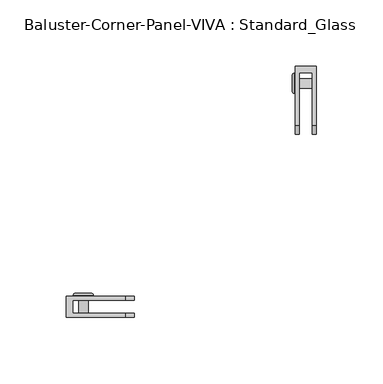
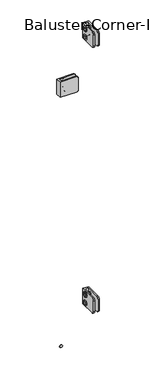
"""IFC4 building model written with IfcOpenShell, lengths in millimetres: railing geometry, Baluster-Corner-Panel-VIVA : Standard_Glass."""

from ifc_helpers import new_model, si_unit, point, frame, origin, place, context, project, spatial, polyline, circle_curve, ellipse_curve, trimmed, outline, extrude, source, transform, mapped, element, save
from ifc_brep_helpers import plane_surface, cylinder_surface, revolved_surface, advanced_brep


def baluster_corner_panel_viva_standard_glass_ee1e2aa6(model_context):
    return source(origin(), model_context, "Body", "SolidModel", [
        extrude(outline(polyline([(140.1000648, 917.178125), (138.0531006, 913.6326791), (133.9591723, 913.6326791), (131.9122082, 917.178125), (133.9591723, 920.7235709), (138.0531006, 920.7235709), (140.1000648, 917.178125)])), frame((21.7024185, 0.0, 0.0), z_axis=(1.0, 0.0, 0.0), x_axis=(0.0, 1.0, 0.0)), (0.0, 0.0, 1.0), 1.4969696),
        advanced_brep(
        [(36.7665, 139.5515824, 917.178125), (36.7665, 132.4606905, 917.178125), (24.0665, 132.4606905, 917.178125), (24.0665, 139.5515824, 917.178125), (24.0665, 128.5983474, 917.178125), (24.0665, 143.4139255, 917.178125), (23.199388, 137.6622118, 917.178125), (23.199388, 134.3500611, 917.178125), (36.7665, 134.3500611, 917.178125), (36.7665, 137.6622118, 917.178125), (23.2316551, 143.4139255, 917.178125), (23.2316551, 128.5983474, 917.178125), (21.9503831, 129.8796194, 917.178125), (21.9503831, 142.1326535, 917.178125), (21.9503831, 131.7075409, 917.178125), (21.9503831, 140.304732, 917.178125), (23.199388, 131.7075409, 917.178125), (23.199388, 140.304732, 917.178125)],
        [
            (0, 1, circle_curve(frame((36.7665, 136.0061365, 917.178125), z_axis=(-1.0, 0.0, 0.0), x_axis=(0.0, -1.0, 0.0)), 3.5454459)),
            (1, 2),
            (2, 3, circle_curve(frame((24.0665, 136.0061365, 917.178125), z_axis=(1.0, 0.0, 0.0), x_axis=(0.0, -1.0, 0.0)), 3.5454459)),
            (3, 0),
            (1, 0, circle_curve(frame((36.7665, 136.0061365, 917.178125), z_axis=(-1.0, 0.0, 0.0), x_axis=(0.0, -1.0, 0.0)), 3.5454459)),
            (3, 2, circle_curve(frame((24.0665, 136.0061365, 917.178125), z_axis=(1.0, 0.0, 0.0), x_axis=(0.0, -1.0, 0.0)), 3.5454459)),
            (2, 4),
            (4, 5, circle_curve(frame((24.0665, 136.0061365, 917.178125), z_axis=(1.0, 0.0, 0.0), x_axis=(0.0, -1.0, 0.0)), 7.4077891)),
            (5, 3),
            (5, 4, circle_curve(frame((24.0665, 136.0061365, 917.178125), z_axis=(1.0, 0.0, 0.0), x_axis=(0.0, -1.0, 0.0)), 7.4077891)),
            (6, 7, circle_curve(frame((23.199388, 136.0061365, 917.178125), z_axis=(-1.0, 0.0, 0.0), x_axis=(0.0, -1.0, 0.0)), 1.6560754)),
            (7, 8),
            (8, 9, circle_curve(frame((36.7665, 136.0061365, 917.178125), z_axis=(1.0, 0.0, 0.0), x_axis=(0.0, -1.0, 0.0)), 1.6560754)),
            (9, 6),
            (7, 6, circle_curve(frame((23.199388, 136.0061365, 917.178125), z_axis=(-1.0, 0.0, 0.0), x_axis=(0.0, -1.0, 0.0)), 1.6560754)),
            (9, 8, circle_curve(frame((36.7665, 136.0061365, 917.178125), z_axis=(1.0, 0.0, 0.0), x_axis=(0.0, -1.0, 0.0)), 1.6560754)),
            (10, 11, circle_curve(frame((23.2316551, 136.0061365, 917.178125), z_axis=(-1.0, 0.0, 0.0), x_axis=(0.0, -1.0, 0.0)), 7.4077891)),
            (11, 12, circle_curve(frame((23.2316551, 129.8796194, 917.178125), z_axis=(0.0, 0.0, -1.0), x_axis=(0.0, -1.0, 0.0)), 1.281272)),
            (12, 13, circle_curve(frame((21.9503831, 136.0061365, 917.178125), z_axis=(1.0, 0.0, 0.0), x_axis=(0.0, -1.0, 0.0)), 6.1265171)),
            (13, 10, circle_curve(frame((23.2316551, 142.1326535, 917.178125), z_axis=(0.0, 0.0, -1.0), x_axis=(0.0, 1.0, 0.0)), 1.281272)),
            (11, 10, circle_curve(frame((23.2316551, 136.0061365, 917.178125), z_axis=(-1.0, 0.0, 0.0), x_axis=(0.0, -1.0, 0.0)), 7.4077891)),
            (13, 12, circle_curve(frame((21.9503831, 136.0061365, 917.178125), z_axis=(1.0, 0.0, 0.0), x_axis=(0.0, -1.0, 0.0)), 6.1265171)),
            (12, 14),
            (14, 15, circle_curve(frame((21.9503831, 136.0061365, 917.178125), z_axis=(1.0, 0.0, 0.0), x_axis=(0.0, -1.0, 0.0)), 4.2985955)),
            (15, 13),
            (15, 14, circle_curve(frame((21.9503831, 136.0061365, 917.178125), z_axis=(1.0, 0.0, 0.0), x_axis=(0.0, -1.0, 0.0)), 4.2985955)),
            (4, 11),
            (10, 5),
            (8, 1),
            (0, 9),
            (14, 16),
            (16, 17, circle_curve(frame((23.199388, 136.0061365, 917.178125), z_axis=(1.0, 0.0, 0.0), x_axis=(0.0, -1.0, 0.0)), 4.2985955)),
            (17, 15),
            (17, 16, circle_curve(frame((23.199388, 136.0061365, 917.178125), z_axis=(1.0, 0.0, 0.0), x_axis=(0.0, -1.0, 0.0)), 4.2985955)),
            (16, 7),
            (6, 17),
        ],
        [
            cylinder_surface(frame((27.5632331, 136.0061365, 917.178125), z_axis=(1.0, 0.0, 0.0), x_axis=(0.0, -1.0, 0.0)), 3.5454459),
            plane_surface(frame((24.0665, 136.0061365, 917.178125), z_axis=(1.0, 0.0, 0.0), x_axis=(0.0, -1.0, 0.0))),
            revolved_surface(polyline([(36.7665, 134.3500611, 917.178125), (23.199388, 134.3500611, 917.178125)]), (27.5632331, 136.0061365, 917.178125), (1.0, 0.0, 0.0)),
            revolved_surface(trimmed(ellipse_curve(frame((23.2316551, 129.8796194, 917.178125), z_axis=(0.0, 0.0, 1.0), x_axis=(0.0, -1.0, 0.0)), 1.281272, 1.281272), [point((21.9503831, 129.8796194, 917.178125))], [point((23.2316551, 128.5983474, 917.178125))], True, "CARTESIAN"), (27.5632331, 136.0061365, 917.178125), (1.0, 0.0, 0.0)),
            plane_surface(frame((21.9503831, 136.0061365, 917.178125), z_axis=(-1.0, 0.0, 0.0), x_axis=(0.0, -1.0, 0.0))),
            cylinder_surface(frame((27.5632331, 136.0061365, 917.178125), z_axis=(1.0, 0.0, 0.0), x_axis=(0.0, -1.0, 0.0)), 7.4077891),
            plane_surface(frame((36.7665, 136.0061365, 917.178125), z_axis=(1.0, 0.0, 0.0), x_axis=(0.0, -1.0, 0.0))),
            revolved_surface(polyline([(23.199388, 131.707541, 917.178125), (21.9503831, 131.707541, 917.178125)]), (27.5632331, 136.0061365, 917.178125), (1.0, 0.0, 0.0)),
            plane_surface(frame((23.199388, 136.0061365, 917.178125), z_axis=(-1.0, 0.0, 0.0), x_axis=(0.0, -1.0, 0.0))),
        ],
        [
            (0, [[1, 2, 3, 4]]),
            (0, [[5, -4, 6, -2]]),
            (1, [[-3, 7, 8, 9]]),
            (1, [[-6, -9, 10, -7]]),
            (2, [[11, 12, 13, 14]]),
            (2, [[15, -14, 16, -12]]),
            (3, [[17, 18, 19, 20]]),
            (3, [[21, -20, 22, -18]]),
            (4, [[-19, 23, 24, 25]]),
            (4, [[-22, -25, 26, -23]]),
            (5, [[-8, 27, -17, 28]]),
            (5, [[-10, -28, -21, -27]]),
            (6, [[-13, 29, -1, 30]]),
            (6, [[-16, -30, -5, -29]]),
            (7, [[-24, 31, 32, 33]]),
            (7, [[-26, -33, 34, -31]]),
            (8, [[-32, 35, -11, 36]]),
            (8, [[-34, -36, -15, -35]]),
        ],
    ),
        advanced_brep(
        [(36.7665, 139.5515824, 892.571875), (36.7665, 132.4606905, 892.571875), (24.0665, 132.4606905, 892.571875), (24.0665, 139.5515824, 892.571875), (24.0665, 128.5983474, 892.571875), (24.0665, 143.4139255, 892.571875), (23.199388, 137.6622118, 892.571875), (23.199388, 134.3500611, 892.571875), (36.7665, 134.3500611, 892.571875), (36.7665, 137.6622118, 892.571875), (23.2316551, 143.4139255, 892.571875), (23.2316551, 128.5983474, 892.571875), (21.9503831, 129.8796194, 892.571875), (21.9503831, 142.1326535, 892.571875), (21.9503831, 131.7075409, 892.571875), (21.9503831, 140.304732, 892.571875), (23.199388, 131.7075409, 892.571875), (23.199388, 140.304732, 892.571875)],
        [
            (0, 1, circle_curve(frame((36.7665, 136.0061365, 892.571875), z_axis=(-1.0, 0.0, 0.0), x_axis=(0.0, -1.0, 0.0)), 3.5454459)),
            (1, 2),
            (2, 3, circle_curve(frame((24.0665, 136.0061365, 892.571875), z_axis=(1.0, 0.0, 0.0), x_axis=(0.0, -1.0, 0.0)), 3.5454459)),
            (3, 0),
            (1, 0, circle_curve(frame((36.7665, 136.0061365, 892.571875), z_axis=(-1.0, 0.0, 0.0), x_axis=(0.0, -1.0, 0.0)), 3.5454459)),
            (3, 2, circle_curve(frame((24.0665, 136.0061365, 892.571875), z_axis=(1.0, 0.0, 0.0), x_axis=(0.0, -1.0, 0.0)), 3.5454459)),
            (2, 4),
            (4, 5, circle_curve(frame((24.0665, 136.0061365, 892.571875), z_axis=(1.0, 0.0, 0.0), x_axis=(0.0, -1.0, 0.0)), 7.4077891)),
            (5, 3),
            (5, 4, circle_curve(frame((24.0665, 136.0061365, 892.571875), z_axis=(1.0, 0.0, 0.0), x_axis=(0.0, -1.0, 0.0)), 7.4077891)),
            (6, 7, circle_curve(frame((23.199388, 136.0061365, 892.571875), z_axis=(-1.0, 0.0, 0.0), x_axis=(0.0, -1.0, 0.0)), 1.6560754)),
            (7, 8),
            (8, 9, circle_curve(frame((36.7665, 136.0061365, 892.571875), z_axis=(1.0, 0.0, 0.0), x_axis=(0.0, -1.0, 0.0)), 1.6560754)),
            (9, 6),
            (7, 6, circle_curve(frame((23.199388, 136.0061365, 892.571875), z_axis=(-1.0, 0.0, 0.0), x_axis=(0.0, -1.0, 0.0)), 1.6560754)),
            (9, 8, circle_curve(frame((36.7665, 136.0061365, 892.571875), z_axis=(1.0, 0.0, 0.0), x_axis=(0.0, -1.0, 0.0)), 1.6560754)),
            (10, 11, circle_curve(frame((23.2316551, 136.0061365, 892.571875), z_axis=(-1.0, 0.0, 0.0), x_axis=(0.0, -1.0, 0.0)), 7.4077891)),
            (11, 12, circle_curve(frame((23.2316551, 129.8796194, 892.571875), z_axis=(0.0, 0.0, -1.0), x_axis=(0.0, -1.0, 0.0)), 1.281272)),
            (12, 13, circle_curve(frame((21.9503831, 136.0061365, 892.571875), z_axis=(1.0, 0.0, 0.0), x_axis=(0.0, -1.0, 0.0)), 6.1265171)),
            (13, 10, circle_curve(frame((23.2316551, 142.1326535, 892.571875), z_axis=(0.0, 0.0, -1.0), x_axis=(0.0, 1.0, 0.0)), 1.281272)),
            (11, 10, circle_curve(frame((23.2316551, 136.0061365, 892.571875), z_axis=(-1.0, 0.0, 0.0), x_axis=(0.0, -1.0, 0.0)), 7.4077891)),
            (13, 12, circle_curve(frame((21.9503831, 136.0061365, 892.571875), z_axis=(1.0, 0.0, 0.0), x_axis=(0.0, -1.0, 0.0)), 6.1265171)),
            (12, 14),
            (14, 15, circle_curve(frame((21.9503831, 136.0061365, 892.571875), z_axis=(1.0, 0.0, 0.0), x_axis=(0.0, -1.0, 0.0)), 4.2985955)),
            (15, 13),
            (15, 14, circle_curve(frame((21.9503831, 136.0061365, 892.571875), z_axis=(1.0, 0.0, 0.0), x_axis=(0.0, -1.0, 0.0)), 4.2985955)),
            (8, 1),
            (0, 9),
            (4, 11),
            (10, 5),
            (14, 16),
            (16, 17, circle_curve(frame((23.199388, 136.0061365, 892.571875), z_axis=(1.0, 0.0, 0.0), x_axis=(0.0, -1.0, 0.0)), 4.2985955)),
            (17, 15),
            (17, 16, circle_curve(frame((23.199388, 136.0061365, 892.571875), z_axis=(1.0, 0.0, 0.0), x_axis=(0.0, -1.0, 0.0)), 4.2985955)),
            (16, 7),
            (6, 17),
        ],
        [
            cylinder_surface(frame((27.5632331, 136.0061365, 892.571875), z_axis=(1.0, 0.0, 0.0), x_axis=(0.0, -1.0, 0.0)), 3.5454459),
            plane_surface(frame((24.0665, 136.0061365, 892.571875), z_axis=(1.0, 0.0, 0.0), x_axis=(0.0, -1.0, 0.0))),
            revolved_surface(polyline([(36.7665, 134.3500611, 892.571875), (23.199388, 134.3500611, 892.571875)]), (27.5632331, 136.0061365, 892.571875), (1.0, 0.0, 0.0)),
            revolved_surface(trimmed(ellipse_curve(frame((23.2316551, 129.8796194, 892.571875), z_axis=(0.0, 0.0, 1.0), x_axis=(0.0, -1.0, 0.0)), 1.281272, 1.281272), [point((21.9503831, 129.8796194, 892.571875))], [point((23.2316551, 128.5983474, 892.571875))], True, "CARTESIAN"), (27.5632331, 136.0061365, 892.571875), (1.0, 0.0, 0.0)),
            plane_surface(frame((21.9503831, 136.0061365, 892.571875), z_axis=(-1.0, 0.0, 0.0), x_axis=(0.0, -1.0, 0.0))),
            plane_surface(frame((36.7665, 136.0061365, 892.571875), z_axis=(1.0, 0.0, 0.0), x_axis=(0.0, -1.0, 0.0))),
            cylinder_surface(frame((27.5632331, 136.0061365, 892.571875), z_axis=(1.0, 0.0, 0.0), x_axis=(0.0, -1.0, 0.0)), 7.4077891),
            revolved_surface(polyline([(23.199388, 131.707541, 892.571875), (21.9503831, 131.707541, 892.571875)]), (27.5632331, 136.0061365, 892.571875), (1.0, 0.0, 0.0)),
            plane_surface(frame((23.199388, 136.0061365, 892.571875), z_axis=(-1.0, 0.0, 0.0), x_axis=(0.0, -1.0, 0.0))),
        ],
        [
            (0, [[1, 2, 3, 4]]),
            (0, [[5, -4, 6, -2]]),
            (1, [[-3, 7, 8, 9]]),
            (1, [[-6, -9, 10, -7]]),
            (2, [[11, 12, 13, 14]]),
            (2, [[15, -14, 16, -12]]),
            (3, [[17, 18, 19, 20]]),
            (3, [[21, -20, 22, -18]]),
            (4, [[-19, 23, 24, 25]]),
            (4, [[-22, -25, 26, -23]]),
            (5, [[-13, 27, -1, 28]]),
            (5, [[-16, -28, -5, -27]]),
            (6, [[-8, 29, -17, 30]]),
            (6, [[-10, -30, -21, -29]]),
            (7, [[-24, 31, 32, 33]]),
            (7, [[-26, -33, 34, -31]]),
            (8, [[-32, 35, -11, 36]]),
            (8, [[-34, -36, -15, -35]]),
        ],
    ),
        extrude(outline(polyline([(140.1000648, 892.571875), (138.0531006, 889.0264291), (133.9591723, 889.0264291), (131.9122082, 892.571875), (133.9591723, 896.1173209), (138.0531006, 896.1173209), (140.1000648, 892.571875)])), frame((21.7024185, 0.0, 0.0), z_axis=(1.0, 0.0, 0.0), x_axis=(0.0, 1.0, 0.0)), (0.0, 0.0, 1.0), 1.4969696),
        advanced_brep(
        [(24.0665, 148.6394812, 927.1), (24.0665, 148.6394812, 882.65), (24.0665, 104.1894812, 882.65), (24.0665, 97.8394812, 889.0), (24.0665, 97.8394812, 920.75), (24.0665, 104.1894812, 927.1), (39.9415, 148.6394812, 927.1), (39.9415, 104.1894812, 927.1), (39.9415, 97.8394812, 920.75), (39.9415, 97.8394812, 889.0), (39.9415, 104.1894812, 882.65), (39.9415, 148.6394812, 882.65), (36.7665, 104.1894812, 882.65), (36.7665, 143.9214008, 882.65), (27.2415, 143.9214008, 882.65), (27.2415, 104.1894812, 882.65), (36.7665, 143.9214008, 927.1), (27.2415, 143.9214008, 927.1), (27.2415, 104.1894812, 927.1), (27.2415, 97.8394812, 920.75), (27.2415, 97.8394812, 889.0), (36.7665, 97.8394812, 889.0), (36.7665, 97.8394812, 920.75), (36.7665, 104.1894812, 927.1)],
        [
            (0, 1),
            (1, 2),
            (2, 3, circle_curve(frame((24.0665, 104.1894812, 889.0), z_axis=(-1.0, 0.0, 0.0), x_axis=(0.0, -1.0, 0.0)), 6.35)),
            (3, 4),
            (4, 5, circle_curve(frame((24.0665, 104.1894812, 920.75), z_axis=(-1.0, 0.0, 0.0), x_axis=(0.0, -1.0, 0.0)), 6.35)),
            (5, 0),
            (6, 7),
            (7, 8, circle_curve(frame((39.9415, 104.1894812, 920.75), z_axis=(1.0, 0.0, 0.0), x_axis=(0.0, -1.0, 0.0)), 6.35)),
            (8, 9),
            (9, 10, circle_curve(frame((39.9415, 104.1894812, 889.0), z_axis=(1.0, 0.0, 0.0), x_axis=(0.0, -1.0, 0.0)), 6.35)),
            (10, 11),
            (11, 6),
            (0, 6),
            (11, 1),
            (10, 12),
            (12, 13),
            (13, 14),
            (14, 15),
            (15, 2),
            (13, 16),
            (16, 17),
            (17, 14),
            (17, 18),
            (18, 19, circle_curve(frame((27.2415, 104.1894812, 920.75), z_axis=(1.0, 0.0, 0.0), x_axis=(0.0, -1.0, 0.0)), 6.35)),
            (19, 20),
            (20, 15, circle_curve(frame((27.2415, 104.1894812, 889.0), z_axis=(1.0, 0.0, 0.0), x_axis=(0.0, -1.0, 0.0)), 6.35)),
            (12, 21, circle_curve(frame((36.7665, 104.1894812, 889.0), z_axis=(-1.0, 0.0, 0.0), x_axis=(0.0, -1.0, 0.0)), 6.35)),
            (21, 22),
            (22, 23, circle_curve(frame((36.7665, 104.1894812, 920.75), z_axis=(-1.0, 0.0, 0.0), x_axis=(0.0, -1.0, 0.0)), 6.35)),
            (23, 16),
            (20, 3),
            (9, 21),
            (19, 4),
            (8, 22),
            (18, 5),
            (7, 23),
        ],
        [
            plane_surface(frame((24.0665, 148.6394812, 882.65), z_axis=(-1.0, 0.0, 0.0), x_axis=(0.0, 0.0, -1.0))),
            plane_surface(frame((39.9415, 148.6394812, 882.65), z_axis=(1.0, 0.0, 0.0), x_axis=(0.0, 0.0, 1.0))),
            plane_surface(frame((24.0665, 148.6394812, 927.1), z_axis=(0.0, 1.0, 0.0), x_axis=(1.0, 0.0, 0.0))),
            plane_surface(frame((24.0665, 148.6394812, 882.65), z_axis=(0.0, 0.0, -1.0), x_axis=(1.0, 0.0, 0.0))),
            plane_surface(frame((36.7665, 143.9214008, 939.8), z_axis=(0.0, -1.0, 0.0), x_axis=(0.0, 0.0, -1.0))),
            plane_surface(frame((27.2415, 143.9214008, 939.8), z_axis=(1.0, 0.0, 0.0), x_axis=(0.0, 0.0, -1.0))),
            plane_surface(frame((36.7665, 85.1394812, 939.8), z_axis=(-1.0, 0.0, 0.0), x_axis=(0.0, 0.0, -1.0))),
            cylinder_surface(frame((39.9415, 104.1894812, 889.0), z_axis=(-1.0, 0.0, 0.0), x_axis=(0.0, -1.0, 0.0)), 6.35),
            plane_surface(frame((24.0665, 97.8394812, 889.0), z_axis=(0.0, -1.0, 0.0), x_axis=(1.0, 0.0, 0.0))),
            cylinder_surface(frame((39.9415, 104.1894812, 920.75), z_axis=(-1.0, 0.0, 0.0), x_axis=(0.0, -1.0, 0.0)), 6.35),
            plane_surface(frame((24.0665, 104.1894812, 927.1), z_axis=(0.0, 0.0, 1.0), x_axis=(1.0, 0.0, 0.0))),
        ],
        [
            (0, [[1, 2, 3, 4, 5, 6]]),
            (1, [[7, 8, 9, 10, 11, 12]]),
            (2, [[-1, 13, -12, 14]]),
            (3, [[-2, -14, -11, 15, 16, 17, 18, 19]]),
            (4, [[20, 21, 22, -17]]),
            (5, [[-22, 23, 24, 25, 26, -18]]),
            (6, [[-20, -16, 27, 28, 29, 30]]),
            (7, [[-3, -19, -26, 31]]),
            (7, [[-10, 32, -27, -15]]),
            (8, [[-4, -31, -25, 33]]),
            (8, [[-9, 34, -28, -32]]),
            (9, [[-5, -33, -24, 35]]),
            (9, [[-8, 36, -29, -34]]),
            (10, [[-6, -35, -23, -21, -30, -36, -7, -13]]),
        ],
    ),
        extrude(outline(polyline([(140.1000648, 138.7358896), (138.0531006, 135.1904437), (133.9591723, 135.1904437), (131.9122082, 138.7358896), (133.9591723, 142.2813355), (138.0531006, 142.2813355), (140.1000648, 138.7358896)])), frame((21.7024185, 0.0, 0.0), z_axis=(1.0, 0.0, 0.0), x_axis=(0.0, 1.0, 0.0)), (0.0, 0.0, 1.0), 1.4969696),
        advanced_brep(
        [(36.7665, 139.5515824, 138.7358896), (36.7665, 132.4606905, 138.7358896), (24.0665, 132.4606905, 138.7358896), (24.0665, 139.5515824, 138.7358896), (24.0665, 128.5983474, 138.7358896), (24.0665, 143.4139255, 138.7358896), (23.199388, 137.6622118, 138.7358896), (23.199388, 134.3500611, 138.7358896), (36.7665, 134.3500611, 138.7358896), (36.7665, 137.6622118, 138.7358896), (23.2316551, 143.4139255, 138.7358896), (23.2316551, 128.5983474, 138.7358896), (21.9503831, 129.8796194, 138.7358896), (21.9503831, 142.1326535, 138.7358896), (21.9503831, 131.7075409, 138.7358896), (21.9503831, 140.304732, 138.7358896), (23.199388, 131.7075409, 138.7358896), (23.199388, 140.304732, 138.7358896)],
        [
            (0, 1, circle_curve(frame((36.7665, 136.0061365, 138.7358896), z_axis=(-1.0, 0.0, 0.0), x_axis=(0.0, -1.0, 0.0)), 3.5454459)),
            (1, 2),
            (2, 3, circle_curve(frame((24.0665, 136.0061365, 138.7358896), z_axis=(1.0, 0.0, 0.0), x_axis=(0.0, -1.0, 0.0)), 3.5454459)),
            (3, 0),
            (1, 0, circle_curve(frame((36.7665, 136.0061365, 138.7358896), z_axis=(-1.0, 0.0, 0.0), x_axis=(0.0, -1.0, 0.0)), 3.5454459)),
            (3, 2, circle_curve(frame((24.0665, 136.0061365, 138.7358896), z_axis=(1.0, 0.0, 0.0), x_axis=(0.0, -1.0, 0.0)), 3.5454459)),
            (2, 4),
            (4, 5, circle_curve(frame((24.0665, 136.0061365, 138.7358896), z_axis=(1.0, 0.0, 0.0), x_axis=(0.0, -1.0, 0.0)), 7.4077891)),
            (5, 3),
            (5, 4, circle_curve(frame((24.0665, 136.0061365, 138.7358896), z_axis=(1.0, 0.0, 0.0), x_axis=(0.0, -1.0, 0.0)), 7.4077891)),
            (6, 7, circle_curve(frame((23.199388, 136.0061365, 138.7358896), z_axis=(-1.0, 0.0, 0.0), x_axis=(0.0, -1.0, 0.0)), 1.6560754)),
            (7, 8),
            (8, 9, circle_curve(frame((36.7665, 136.0061365, 138.7358896), z_axis=(1.0, 0.0, 0.0), x_axis=(0.0, -1.0, 0.0)), 1.6560754)),
            (9, 6),
            (7, 6, circle_curve(frame((23.199388, 136.0061365, 138.7358896), z_axis=(-1.0, 0.0, 0.0), x_axis=(0.0, -1.0, 0.0)), 1.6560754)),
            (9, 8, circle_curve(frame((36.7665, 136.0061365, 138.7358896), z_axis=(1.0, 0.0, 0.0), x_axis=(0.0, -1.0, 0.0)), 1.6560754)),
            (10, 11, circle_curve(frame((23.2316551, 136.0061365, 138.7358896), z_axis=(-1.0, 0.0, 0.0), x_axis=(0.0, -1.0, 0.0)), 7.4077891)),
            (11, 12, circle_curve(frame((23.2316551, 129.8796194, 138.7358896), z_axis=(0.0, 0.0, -1.0), x_axis=(0.0, -1.0, 0.0)), 1.281272)),
            (12, 13, circle_curve(frame((21.9503831, 136.0061365, 138.7358896), z_axis=(1.0, 0.0, 0.0), x_axis=(0.0, -1.0, 0.0)), 6.1265171)),
            (13, 10, circle_curve(frame((23.2316551, 142.1326535, 138.7358896), z_axis=(0.0, 0.0, -1.0), x_axis=(0.0, 1.0, 0.0)), 1.281272)),
            (11, 10, circle_curve(frame((23.2316551, 136.0061365, 138.7358896), z_axis=(-1.0, 0.0, 0.0), x_axis=(0.0, -1.0, 0.0)), 7.4077891)),
            (13, 12, circle_curve(frame((21.9503831, 136.0061365, 138.7358896), z_axis=(1.0, 0.0, 0.0), x_axis=(0.0, -1.0, 0.0)), 6.1265171)),
            (12, 14),
            (14, 15, circle_curve(frame((21.9503831, 136.0061365, 138.7358896), z_axis=(1.0, 0.0, 0.0), x_axis=(0.0, -1.0, 0.0)), 4.2985955)),
            (15, 13),
            (15, 14, circle_curve(frame((21.9503831, 136.0061365, 138.7358896), z_axis=(1.0, 0.0, 0.0), x_axis=(0.0, -1.0, 0.0)), 4.2985955)),
            (4, 11),
            (10, 5),
            (8, 1),
            (0, 9),
            (14, 16),
            (16, 17, circle_curve(frame((23.199388, 136.0061365, 138.7358896), z_axis=(1.0, 0.0, 0.0), x_axis=(0.0, -1.0, 0.0)), 4.2985955)),
            (17, 15),
            (17, 16, circle_curve(frame((23.199388, 136.0061365, 138.7358896), z_axis=(1.0, 0.0, 0.0), x_axis=(0.0, -1.0, 0.0)), 4.2985955)),
            (16, 7),
            (6, 17),
        ],
        [
            cylinder_surface(frame((27.5632331, 136.0061365, 138.7358896), z_axis=(1.0, 0.0, 0.0), x_axis=(0.0, -1.0, 0.0)), 3.5454459),
            plane_surface(frame((24.0665, 136.0061365, 138.7358896), z_axis=(1.0, 0.0, 0.0), x_axis=(0.0, -1.0, 0.0))),
            revolved_surface(polyline([(36.7665, 134.3500611, 138.7358896), (23.199388, 134.3500611, 138.7358896)]), (27.5632331, 136.0061365, 138.7358896), (1.0, 0.0, 0.0)),
            revolved_surface(trimmed(ellipse_curve(frame((23.2316551, 129.8796194, 138.7358896), z_axis=(0.0, 0.0, 1.0), x_axis=(0.0, -1.0, 0.0)), 1.281272, 1.281272), [point((21.9503831, 129.8796194, 138.7358896))], [point((23.2316551, 128.5983474, 138.7358896))], True, "CARTESIAN"), (27.5632331, 136.0061365, 138.7358896), (1.0, 0.0, 0.0)),
            plane_surface(frame((21.9503831, 136.0061365, 138.7358896), z_axis=(-1.0, 0.0, 0.0), x_axis=(0.0, -1.0, 0.0))),
            cylinder_surface(frame((27.5632331, 136.0061365, 138.7358896), z_axis=(1.0, 0.0, 0.0), x_axis=(0.0, -1.0, 0.0)), 7.4077891),
            plane_surface(frame((36.7665, 136.0061365, 138.7358896), z_axis=(1.0, 0.0, 0.0), x_axis=(0.0, -1.0, 0.0))),
            revolved_surface(polyline([(23.199388, 131.707541, 138.7358896), (21.9503831, 131.707541, 138.7358896)]), (27.5632331, 136.0061365, 138.7358896), (1.0, 0.0, 0.0)),
            plane_surface(frame((23.199388, 136.0061365, 138.7358896), z_axis=(-1.0, 0.0, 0.0), x_axis=(0.0, -1.0, 0.0))),
        ],
        [
            (0, [[1, 2, 3, 4]]),
            (0, [[5, -4, 6, -2]]),
            (1, [[-3, 7, 8, 9]]),
            (1, [[-6, -9, 10, -7]]),
            (2, [[11, 12, 13, 14]]),
            (2, [[15, -14, 16, -12]]),
            (3, [[17, 18, 19, 20]]),
            (3, [[21, -20, 22, -18]]),
            (4, [[-19, 23, 24, 25]]),
            (4, [[-22, -25, 26, -23]]),
            (5, [[-8, 27, -17, 28]]),
            (5, [[-10, -28, -21, -27]]),
            (6, [[-13, 29, -1, 30]]),
            (6, [[-16, -30, -5, -29]]),
            (7, [[-24, 31, 32, 33]]),
            (7, [[-26, -33, 34, -31]]),
            (8, [[-32, 35, -11, 36]]),
            (8, [[-34, -36, -15, -35]]),
        ],
    ),
        advanced_brep(
        [(36.7665, 139.5515824, 114.1296396), (36.7665, 132.4606905, 114.1296396), (24.0665, 132.4606905, 114.1296396), (24.0665, 139.5515824, 114.1296396), (24.0665, 128.5983474, 114.1296396), (24.0665, 143.4139255, 114.1296396), (23.199388, 137.6622118, 114.1296396), (23.199388, 134.3500611, 114.1296396), (36.7665, 134.3500611, 114.1296396), (36.7665, 137.6622118, 114.1296396), (23.2316551, 143.4139255, 114.1296396), (23.2316551, 128.5983474, 114.1296396), (21.9503831, 129.8796194, 114.1296396), (21.9503831, 142.1326535, 114.1296396), (21.9503831, 131.7075409, 114.1296396), (21.9503831, 140.304732, 114.1296396), (23.199388, 131.7075409, 114.1296396), (23.199388, 140.304732, 114.1296396)],
        [
            (0, 1, circle_curve(frame((36.7665, 136.0061365, 114.1296396), z_axis=(-1.0, 0.0, 0.0), x_axis=(0.0, -1.0, 0.0)), 3.5454459)),
            (1, 2),
            (2, 3, circle_curve(frame((24.0665, 136.0061365, 114.1296396), z_axis=(1.0, 0.0, 0.0), x_axis=(0.0, -1.0, 0.0)), 3.5454459)),
            (3, 0),
            (1, 0, circle_curve(frame((36.7665, 136.0061365, 114.1296396), z_axis=(-1.0, 0.0, 0.0), x_axis=(0.0, -1.0, 0.0)), 3.5454459)),
            (3, 2, circle_curve(frame((24.0665, 136.0061365, 114.1296396), z_axis=(1.0, 0.0, 0.0), x_axis=(0.0, -1.0, 0.0)), 3.5454459)),
            (2, 4),
            (4, 5, circle_curve(frame((24.0665, 136.0061365, 114.1296396), z_axis=(1.0, 0.0, 0.0), x_axis=(0.0, -1.0, 0.0)), 7.4077891)),
            (5, 3),
            (5, 4, circle_curve(frame((24.0665, 136.0061365, 114.1296396), z_axis=(1.0, 0.0, 0.0), x_axis=(0.0, -1.0, 0.0)), 7.4077891)),
            (6, 7, circle_curve(frame((23.199388, 136.0061365, 114.1296396), z_axis=(-1.0, 0.0, 0.0), x_axis=(0.0, -1.0, 0.0)), 1.6560754)),
            (7, 8),
            (8, 9, circle_curve(frame((36.7665, 136.0061365, 114.1296396), z_axis=(1.0, 0.0, 0.0), x_axis=(0.0, -1.0, 0.0)), 1.6560754)),
            (9, 6),
            (7, 6, circle_curve(frame((23.199388, 136.0061365, 114.1296396), z_axis=(-1.0, 0.0, 0.0), x_axis=(0.0, -1.0, 0.0)), 1.6560754)),
            (9, 8, circle_curve(frame((36.7665, 136.0061365, 114.1296396), z_axis=(1.0, 0.0, 0.0), x_axis=(0.0, -1.0, 0.0)), 1.6560754)),
            (10, 11, circle_curve(frame((23.2316551, 136.0061365, 114.1296396), z_axis=(-1.0, 0.0, 0.0), x_axis=(0.0, -1.0, 0.0)), 7.4077891)),
            (11, 12, circle_curve(frame((23.2316551, 129.8796194, 114.1296396), z_axis=(0.0, 0.0, -1.0), x_axis=(0.0, -1.0, 0.0)), 1.281272)),
            (12, 13, circle_curve(frame((21.9503831, 136.0061365, 114.1296396), z_axis=(1.0, 0.0, 0.0), x_axis=(0.0, -1.0, 0.0)), 6.1265171)),
            (13, 10, circle_curve(frame((23.2316551, 142.1326535, 114.1296396), z_axis=(0.0, 0.0, -1.0), x_axis=(0.0, 1.0, 0.0)), 1.281272)),
            (11, 10, circle_curve(frame((23.2316551, 136.0061365, 114.1296396), z_axis=(-1.0, 0.0, 0.0), x_axis=(0.0, -1.0, 0.0)), 7.4077891)),
            (13, 12, circle_curve(frame((21.9503831, 136.0061365, 114.1296396), z_axis=(1.0, 0.0, 0.0), x_axis=(0.0, -1.0, 0.0)), 6.1265171)),
            (12, 14),
            (14, 15, circle_curve(frame((21.9503831, 136.0061365, 114.1296396), z_axis=(1.0, 0.0, 0.0), x_axis=(0.0, -1.0, 0.0)), 4.2985955)),
            (15, 13),
            (15, 14, circle_curve(frame((21.9503831, 136.0061365, 114.1296396), z_axis=(1.0, 0.0, 0.0), x_axis=(0.0, -1.0, 0.0)), 4.2985955)),
            (8, 1),
            (0, 9),
            (4, 11),
            (10, 5),
            (14, 16),
            (16, 17, circle_curve(frame((23.199388, 136.0061365, 114.1296396), z_axis=(1.0, 0.0, 0.0), x_axis=(0.0, -1.0, 0.0)), 4.2985955)),
            (17, 15),
            (17, 16, circle_curve(frame((23.199388, 136.0061365, 114.1296396), z_axis=(1.0, 0.0, 0.0), x_axis=(0.0, -1.0, 0.0)), 4.2985955)),
            (16, 7),
            (6, 17),
        ],
        [
            cylinder_surface(frame((27.5632331, 136.0061365, 114.1296396), z_axis=(1.0, 0.0, 0.0), x_axis=(0.0, -1.0, 0.0)), 3.5454459),
            plane_surface(frame((24.0665, 136.0061365, 114.1296396), z_axis=(1.0, 0.0, 0.0), x_axis=(0.0, -1.0, 0.0))),
            revolved_surface(polyline([(36.7665, 134.3500611, 114.1296396), (23.199388, 134.3500611, 114.1296396)]), (27.5632331, 136.0061365, 114.1296396), (1.0, 0.0, 0.0)),
            revolved_surface(trimmed(ellipse_curve(frame((23.2316551, 129.8796194, 114.1296396), z_axis=(0.0, 0.0, 1.0), x_axis=(0.0, -1.0, 0.0)), 1.281272, 1.281272), [point((21.9503831, 129.8796194, 114.1296396))], [point((23.2316551, 128.5983474, 114.1296396))], True, "CARTESIAN"), (27.5632331, 136.0061365, 114.1296396), (1.0, 0.0, 0.0)),
            plane_surface(frame((21.9503831, 136.0061365, 114.1296396), z_axis=(-1.0, 0.0, 0.0), x_axis=(0.0, -1.0, 0.0))),
            plane_surface(frame((36.7665, 136.0061365, 114.1296396), z_axis=(1.0, 0.0, 0.0), x_axis=(0.0, -1.0, 0.0))),
            cylinder_surface(frame((27.5632331, 136.0061365, 114.1296396), z_axis=(1.0, 0.0, 0.0), x_axis=(0.0, -1.0, 0.0)), 7.4077891),
            revolved_surface(polyline([(23.199388, 131.707541, 114.1296396), (21.9503831, 131.707541, 114.1296396)]), (27.5632331, 136.0061365, 114.1296396), (1.0, 0.0, 0.0)),
            plane_surface(frame((23.199388, 136.0061365, 114.1296396), z_axis=(-1.0, 0.0, 0.0), x_axis=(0.0, -1.0, 0.0))),
        ],
        [
            (0, [[1, 2, 3, 4]]),
            (0, [[5, -4, 6, -2]]),
            (1, [[-3, 7, 8, 9]]),
            (1, [[-6, -9, 10, -7]]),
            (2, [[11, 12, 13, 14]]),
            (2, [[15, -14, 16, -12]]),
            (3, [[17, 18, 19, 20]]),
            (3, [[21, -20, 22, -18]]),
            (4, [[-19, 23, 24, 25]]),
            (4, [[-22, -25, 26, -23]]),
            (5, [[-13, 27, -1, 28]]),
            (5, [[-16, -28, -5, -27]]),
            (6, [[-8, 29, -17, 30]]),
            (6, [[-10, -30, -21, -29]]),
            (7, [[-24, 31, 32, 33]]),
            (7, [[-26, -33, 34, -31]]),
            (8, [[-32, 35, -11, 36]]),
            (8, [[-34, -36, -15, -35]]),
        ],
    ),
        extrude(outline(polyline([(140.1000648, 114.1296396), (138.0531006, 110.5841937), (133.9591723, 110.5841937), (131.9122082, 114.1296396), (133.9591723, 117.6750855), (138.0531006, 117.6750855), (140.1000648, 114.1296396)])), frame((21.7024185, 0.0, 0.0), z_axis=(1.0, 0.0, 0.0), x_axis=(0.0, 1.0, 0.0)), (0.0, 0.0, 1.0), 1.4969696),
        advanced_brep(
        [(24.0665, 148.6394812, 148.6577646), (24.0665, 148.6394812, 104.2077646), (24.0665, 104.1894812, 104.2077646), (24.0665, 97.8394812, 110.5577646), (24.0665, 97.8394812, 142.3077646), (24.0665, 104.1894812, 148.6577646), (39.9415, 148.6394812, 148.6577646), (39.9415, 104.1894812, 148.6577646), (39.9415, 97.8394812, 142.3077646), (39.9415, 97.8394812, 110.5577646), (39.9415, 104.1894812, 104.2077646), (39.9415, 148.6394812, 104.2077646), (36.7665, 104.1894812, 104.2077646), (36.7665, 143.9214008, 104.2077646), (27.2415, 143.9214008, 104.2077646), (27.2415, 104.1894812, 104.2077646), (36.7665, 143.9214008, 148.6577646), (27.2415, 143.9214008, 148.6577646), (27.2415, 104.1894812, 148.6577646), (27.2415, 97.8394812, 142.3077646), (27.2415, 97.8394812, 110.5577646), (36.7665, 97.8394812, 110.5577646), (36.7665, 97.8394812, 142.3077646), (36.7665, 104.1894812, 148.6577646)],
        [
            (0, 1),
            (1, 2),
            (2, 3, circle_curve(frame((24.0665, 104.1894812, 110.5577646), z_axis=(-1.0, 0.0, 0.0), x_axis=(0.0, -1.0, 0.0)), 6.35)),
            (3, 4),
            (4, 5, circle_curve(frame((24.0665, 104.1894812, 142.3077646), z_axis=(-1.0, 0.0, 0.0), x_axis=(0.0, -1.0, 0.0)), 6.35)),
            (5, 0),
            (6, 7),
            (7, 8, circle_curve(frame((39.9415, 104.1894812, 142.3077646), z_axis=(1.0, 0.0, 0.0), x_axis=(0.0, -1.0, 0.0)), 6.35)),
            (8, 9),
            (9, 10, circle_curve(frame((39.9415, 104.1894812, 110.5577646), z_axis=(1.0, 0.0, 0.0), x_axis=(0.0, -1.0, 0.0)), 6.35)),
            (10, 11),
            (11, 6),
            (0, 6),
            (11, 1),
            (10, 12),
            (12, 13),
            (13, 14),
            (14, 15),
            (15, 2),
            (13, 16),
            (16, 17),
            (17, 14),
            (17, 18),
            (18, 19, circle_curve(frame((27.2415, 104.1894812, 142.3077646), z_axis=(1.0, 0.0, 0.0), x_axis=(0.0, -1.0, 0.0)), 6.35)),
            (19, 20),
            (20, 15, circle_curve(frame((27.2415, 104.1894812, 110.5577646), z_axis=(1.0, 0.0, 0.0), x_axis=(0.0, -1.0, 0.0)), 6.35)),
            (12, 21, circle_curve(frame((36.7665, 104.1894812, 110.5577646), z_axis=(-1.0, 0.0, 0.0), x_axis=(0.0, -1.0, 0.0)), 6.35)),
            (21, 22),
            (22, 23, circle_curve(frame((36.7665, 104.1894812, 142.3077646), z_axis=(-1.0, 0.0, 0.0), x_axis=(0.0, -1.0, 0.0)), 6.35)),
            (23, 16),
            (20, 3),
            (9, 21),
            (19, 4),
            (8, 22),
            (18, 5),
            (7, 23),
        ],
        [
            plane_surface(frame((24.0665, 148.6394812, 104.2077646), z_axis=(-1.0, 0.0, 0.0), x_axis=(0.0, 0.0, -1.0))),
            plane_surface(frame((39.9415, 148.6394812, 104.2077646), z_axis=(1.0, 0.0, 0.0), x_axis=(0.0, 0.0, 1.0))),
            plane_surface(frame((24.0665, 148.6394812, 148.6577646), z_axis=(0.0, 1.0, 0.0), x_axis=(1.0, 0.0, 0.0))),
            plane_surface(frame((24.0665, 148.6394812, 104.2077646), z_axis=(0.0, 0.0, -1.0), x_axis=(1.0, 0.0, 0.0))),
            plane_surface(frame((36.7665, 143.9214008, 161.3577646), z_axis=(0.0, -1.0, 0.0), x_axis=(0.0, 0.0, -1.0))),
            plane_surface(frame((27.2415, 143.9214008, 161.3577646), z_axis=(1.0, 0.0, 0.0), x_axis=(0.0, 0.0, -1.0))),
            plane_surface(frame((36.7665, 85.1394812, 161.3577646), z_axis=(-1.0, 0.0, 0.0), x_axis=(0.0, 0.0, -1.0))),
            cylinder_surface(frame((39.9415, 104.1894812, 110.5577646), z_axis=(-1.0, 0.0, 0.0), x_axis=(0.0, -1.0, 0.0)), 6.35),
            plane_surface(frame((24.0665, 97.8394812, 110.5577646), z_axis=(0.0, -1.0, 0.0), x_axis=(1.0, 0.0, 0.0))),
            cylinder_surface(frame((39.9415, 104.1894812, 142.3077646), z_axis=(-1.0, 0.0, 0.0), x_axis=(0.0, -1.0, 0.0)), 6.35),
            plane_surface(frame((24.0665, 104.1894812, 148.6577646), z_axis=(0.0, 0.0, 1.0), x_axis=(1.0, 0.0, 0.0))),
        ],
        [
            (0, [[1, 2, 3, 4, 5, 6]]),
            (1, [[7, 8, 9, 10, 11, 12]]),
            (2, [[-1, 13, -12, 14]]),
            (3, [[-2, -14, -11, 15, 16, 17, 18, 19]]),
            (4, [[20, 21, 22, -17]]),
            (5, [[-22, 23, 24, 25, 26, -18]]),
            (6, [[-20, -16, 27, 28, 29, 30]]),
            (7, [[-3, -19, -26, 31]]),
            (7, [[-10, 32, -27, -15]]),
            (8, [[-4, -31, -25, 33]]),
            (8, [[-9, 34, -28, -32]]),
            (9, [[-5, -33, -24, 35]]),
            (9, [[-8, 36, -29, -34]]),
            (10, [[-6, -35, -23, -21, -30, -36, -7, -13]]),
        ],
    ),
        extrude(outline(polyline([(917.178125, -139.3480546), (913.6326791, -137.3010904), (913.6326791, -133.2071621), (917.178125, -131.160198), (920.7235709, -133.2071621), (920.7235709, -137.3010904), (917.178125, -139.3480546)])), frame((0.0, -23.199388, 0.0), z_axis=(0.0, 1.0, 0.0), x_axis=(0.0, 0.0, 1.0)), (0.0, 0.0, 1.0), 1.4969696),
        advanced_brep(
        [(-138.7995722, -36.7665, 917.178125), (-138.7995722, -24.0665, 917.178125), (-131.7086804, -24.0665, 917.178125), (-131.7086804, -36.7665, 917.178125), (-142.6619153, -24.0665, 917.178125), (-127.8463372, -24.0665, 917.178125), (-136.9102016, -23.199388, 917.178125), (-136.9102016, -36.7665, 917.178125), (-133.5980509, -36.7665, 917.178125), (-133.5980509, -23.199388, 917.178125), (-142.6619153, -23.2316551, 917.178125), (-141.3806433, -21.9503831, 917.178125), (-129.1276092, -21.9503831, 917.178125), (-127.8463372, -23.2316551, 917.178125), (-139.5527218, -21.9503831, 917.178125), (-130.9555307, -21.9503831, 917.178125), (-139.5527218, -23.199388, 917.178125), (-130.9555307, -23.199388, 917.178125)],
        [
            (0, 1),
            (1, 2, circle_curve(frame((-135.2541263, -24.0665, 917.178125), z_axis=(0.0, -1.0, 0.0), x_axis=(1.0, 0.0, 0.0)), 3.5454459)),
            (2, 3),
            (3, 0, circle_curve(frame((-135.2541263, -36.7665, 917.178125), z_axis=(0.0, 1.0, 0.0), x_axis=(1.0, 0.0, 0.0)), 3.5454459)),
            (2, 1, circle_curve(frame((-135.2541263, -24.0665, 917.178125), z_axis=(0.0, -1.0, 0.0), x_axis=(1.0, 0.0, 0.0)), 3.5454459)),
            (0, 3, circle_curve(frame((-135.2541263, -36.7665, 917.178125), z_axis=(0.0, 1.0, 0.0), x_axis=(1.0, 0.0, 0.0)), 3.5454459)),
            (1, 4),
            (4, 5, circle_curve(frame((-135.2541263, -24.0665, 917.178125), z_axis=(0.0, -1.0, 0.0), x_axis=(1.0, 0.0, 0.0)), 7.4077891)),
            (5, 2),
            (5, 4, circle_curve(frame((-135.2541263, -24.0665, 917.178125), z_axis=(0.0, -1.0, 0.0), x_axis=(1.0, 0.0, 0.0)), 7.4077891)),
            (6, 7),
            (7, 8, circle_curve(frame((-135.2541263, -36.7665, 917.178125), z_axis=(0.0, -1.0, 0.0), x_axis=(1.0, 0.0, 0.0)), 1.6560754)),
            (8, 9),
            (9, 6, circle_curve(frame((-135.2541263, -23.199388, 917.178125), z_axis=(0.0, 1.0, 0.0), x_axis=(1.0, 0.0, 0.0)), 1.6560754)),
            (8, 7, circle_curve(frame((-135.2541263, -36.7665, 917.178125), z_axis=(0.0, -1.0, 0.0), x_axis=(1.0, 0.0, 0.0)), 1.6560754)),
            (6, 9, circle_curve(frame((-135.2541263, -23.199388, 917.178125), z_axis=(0.0, 1.0, 0.0), x_axis=(1.0, 0.0, 0.0)), 1.6560754)),
            (10, 11, circle_curve(frame((-141.3806433, -23.2316551, 917.178125), z_axis=(0.0, 0.0, -1.0), x_axis=(-1.0, 0.0, 0.0)), 1.281272)),
            (11, 12, circle_curve(frame((-135.2541263, -21.9503831, 917.178125), z_axis=(0.0, -1.0, 0.0), x_axis=(1.0, 0.0, 0.0)), 6.1265171)),
            (12, 13, circle_curve(frame((-129.1276092, -23.2316551, 917.178125), z_axis=(0.0, 0.0, -1.0), x_axis=(1.0, 0.0, 0.0)), 1.281272)),
            (13, 10, circle_curve(frame((-135.2541263, -23.2316551, 917.178125), z_axis=(0.0, 1.0, 0.0), x_axis=(1.0, 0.0, 0.0)), 7.4077891)),
            (12, 11, circle_curve(frame((-135.2541263, -21.9503831, 917.178125), z_axis=(0.0, -1.0, 0.0), x_axis=(1.0, 0.0, 0.0)), 6.1265171)),
            (10, 13, circle_curve(frame((-135.2541263, -23.2316551, 917.178125), z_axis=(0.0, 1.0, 0.0), x_axis=(1.0, 0.0, 0.0)), 7.4077891)),
            (11, 14),
            (14, 15, circle_curve(frame((-135.2541263, -21.9503831, 917.178125), z_axis=(0.0, -1.0, 0.0), x_axis=(1.0, 0.0, 0.0)), 4.2985955)),
            (15, 12),
            (15, 14, circle_curve(frame((-135.2541263, -21.9503831, 917.178125), z_axis=(0.0, -1.0, 0.0), x_axis=(1.0, 0.0, 0.0)), 4.2985955)),
            (4, 10),
            (13, 5),
            (7, 0),
            (3, 8),
            (14, 16),
            (16, 17, circle_curve(frame((-135.2541263, -23.199388, 917.178125), z_axis=(0.0, -1.0, 0.0), x_axis=(1.0, 0.0, 0.0)), 4.2985955)),
            (17, 15),
            (17, 16, circle_curve(frame((-135.2541263, -23.199388, 917.178125), z_axis=(0.0, -1.0, 0.0), x_axis=(1.0, 0.0, 0.0)), 4.2985955)),
            (16, 6),
            (9, 17),
        ],
        [
            cylinder_surface(frame((-135.2541263, -27.5632331, 917.178125), z_axis=(0.0, -1.0, 0.0), x_axis=(1.0, 0.0, 0.0)), 3.5454459),
            plane_surface(frame((-135.2541263, -24.0665, 917.178125), z_axis=(0.0, -1.0, 0.0), x_axis=(1.0, 0.0, 0.0))),
            revolved_surface(polyline([(-133.5980509, -36.7665, 917.178125), (-133.5980509, -23.199388, 917.178125)]), (-135.2541263, -27.5632331, 917.178125), (0.0, -1.0, 0.0)),
            revolved_surface(trimmed(ellipse_curve(frame((-129.1276092, -23.2316551, 917.178125), z_axis=(0.0, 0.0, -1.0), x_axis=(1.0, 0.0, 0.0)), 1.281272, 1.281272), [point((-129.1276092, -21.9503831, 917.178125))], [point((-127.8463372, -23.2316551, 917.178125))], True, "CARTESIAN"), (-135.2541263, -27.5632331, 917.178125), (0.0, -1.0, 0.0)),
            plane_surface(frame((-135.2541263, -21.9503831, 917.178125), z_axis=(0.0, 1.0, 0.0), x_axis=(1.0, 0.0, 0.0))),
            cylinder_surface(frame((-135.2541263, -27.5632331, 917.178125), z_axis=(0.0, -1.0, 0.0), x_axis=(1.0, 0.0, 0.0)), 7.4077891),
            plane_surface(frame((-135.2541263, -36.7665, 917.178125), z_axis=(0.0, -1.0, 0.0), x_axis=(1.0, 0.0, 0.0))),
            revolved_surface(polyline([(-130.9555308, -23.199388, 917.178125), (-130.9555308, -21.9503831, 917.178125)]), (-135.2541263, -27.5632331, 917.178125), (0.0, -1.0, 0.0)),
            plane_surface(frame((-135.2541263, -23.199388, 917.178125), z_axis=(0.0, 1.0, 0.0), x_axis=(1.0, 0.0, 0.0))),
        ],
        [
            (0, [[1, 2, 3, 4]]),
            (0, [[-3, 5, -1, 6]]),
            (1, [[7, 8, 9, -2]]),
            (1, [[-9, 10, -7, -5]]),
            (2, [[11, 12, 13, 14]]),
            (2, [[-13, 15, -11, 16]]),
            (3, [[17, 18, 19, 20]]),
            (3, [[-19, 21, -17, 22]]),
            (4, [[23, 24, 25, -18]]),
            (4, [[-25, 26, -23, -21]]),
            (5, [[27, -20, 28, -8]]),
            (5, [[-28, -22, -27, -10]]),
            (6, [[29, -4, 30, -12]]),
            (6, [[-30, -6, -29, -15]]),
            (7, [[31, 32, 33, -24]]),
            (7, [[-33, 34, -31, -26]]),
            (8, [[35, -14, 36, -32]]),
            (8, [[-36, -16, -35, -34]]),
        ],
    ),
        advanced_brep(
        [(-138.7995722, -36.7665, 892.571875), (-138.7995722, -24.0665, 892.571875), (-131.7086804, -24.0665, 892.571875), (-131.7086804, -36.7665, 892.571875), (-142.6619153, -24.0665, 892.571875), (-127.8463372, -24.0665, 892.571875), (-136.9102016, -23.199388, 892.571875), (-136.9102016, -36.7665, 892.571875), (-133.5980509, -36.7665, 892.571875), (-133.5980509, -23.199388, 892.571875), (-142.6619153, -23.2316551, 892.571875), (-141.3806433, -21.9503831, 892.571875), (-129.1276092, -21.9503831, 892.571875), (-127.8463372, -23.2316551, 892.571875), (-139.5527218, -21.9503831, 892.571875), (-130.9555307, -21.9503831, 892.571875), (-139.5527218, -23.199388, 892.571875), (-130.9555307, -23.199388, 892.571875)],
        [
            (0, 1),
            (1, 2, circle_curve(frame((-135.2541263, -24.0665, 892.571875), z_axis=(0.0, -1.0, 0.0), x_axis=(1.0, 0.0, 0.0)), 3.5454459)),
            (2, 3),
            (3, 0, circle_curve(frame((-135.2541263, -36.7665, 892.571875), z_axis=(0.0, 1.0, 0.0), x_axis=(1.0, 0.0, 0.0)), 3.5454459)),
            (2, 1, circle_curve(frame((-135.2541263, -24.0665, 892.571875), z_axis=(0.0, -1.0, 0.0), x_axis=(1.0, 0.0, 0.0)), 3.5454459)),
            (0, 3, circle_curve(frame((-135.2541263, -36.7665, 892.571875), z_axis=(0.0, 1.0, 0.0), x_axis=(1.0, 0.0, 0.0)), 3.5454459)),
            (1, 4),
            (4, 5, circle_curve(frame((-135.2541263, -24.0665, 892.571875), z_axis=(0.0, -1.0, 0.0), x_axis=(1.0, 0.0, 0.0)), 7.4077891)),
            (5, 2),
            (5, 4, circle_curve(frame((-135.2541263, -24.0665, 892.571875), z_axis=(0.0, -1.0, 0.0), x_axis=(1.0, 0.0, 0.0)), 7.4077891)),
            (6, 7),
            (7, 8, circle_curve(frame((-135.2541263, -36.7665, 892.571875), z_axis=(0.0, -1.0, 0.0), x_axis=(1.0, 0.0, 0.0)), 1.6560754)),
            (8, 9),
            (9, 6, circle_curve(frame((-135.2541263, -23.199388, 892.571875), z_axis=(0.0, 1.0, 0.0), x_axis=(1.0, 0.0, 0.0)), 1.6560754)),
            (8, 7, circle_curve(frame((-135.2541263, -36.7665, 892.571875), z_axis=(0.0, -1.0, 0.0), x_axis=(1.0, 0.0, 0.0)), 1.6560754)),
            (6, 9, circle_curve(frame((-135.2541263, -23.199388, 892.571875), z_axis=(0.0, 1.0, 0.0), x_axis=(1.0, 0.0, 0.0)), 1.6560754)),
            (10, 11, circle_curve(frame((-141.3806433, -23.2316551, 892.571875), z_axis=(0.0, 0.0, -1.0), x_axis=(-1.0, 0.0, 0.0)), 1.281272)),
            (11, 12, circle_curve(frame((-135.2541263, -21.9503831, 892.571875), z_axis=(0.0, -1.0, 0.0), x_axis=(1.0, 0.0, 0.0)), 6.1265171)),
            (12, 13, circle_curve(frame((-129.1276092, -23.2316551, 892.571875), z_axis=(0.0, 0.0, -1.0), x_axis=(1.0, 0.0, 0.0)), 1.281272)),
            (13, 10, circle_curve(frame((-135.2541263, -23.2316551, 892.571875), z_axis=(0.0, 1.0, 0.0), x_axis=(1.0, 0.0, 0.0)), 7.4077891)),
            (12, 11, circle_curve(frame((-135.2541263, -21.9503831, 892.571875), z_axis=(0.0, -1.0, 0.0), x_axis=(1.0, 0.0, 0.0)), 6.1265171)),
            (10, 13, circle_curve(frame((-135.2541263, -23.2316551, 892.571875), z_axis=(0.0, 1.0, 0.0), x_axis=(1.0, 0.0, 0.0)), 7.4077891)),
            (11, 14),
            (14, 15, circle_curve(frame((-135.2541263, -21.9503831, 892.571875), z_axis=(0.0, -1.0, 0.0), x_axis=(1.0, 0.0, 0.0)), 4.2985955)),
            (15, 12),
            (15, 14, circle_curve(frame((-135.2541263, -21.9503831, 892.571875), z_axis=(0.0, -1.0, 0.0), x_axis=(1.0, 0.0, 0.0)), 4.2985955)),
            (7, 0),
            (3, 8),
            (4, 10),
            (13, 5),
            (14, 16),
            (16, 17, circle_curve(frame((-135.2541263, -23.199388, 892.571875), z_axis=(0.0, -1.0, 0.0), x_axis=(1.0, 0.0, 0.0)), 4.2985955)),
            (17, 15),
            (17, 16, circle_curve(frame((-135.2541263, -23.199388, 892.571875), z_axis=(0.0, -1.0, 0.0), x_axis=(1.0, 0.0, 0.0)), 4.2985955)),
            (16, 6),
            (9, 17),
        ],
        [
            cylinder_surface(frame((-135.2541263, -27.5632331, 892.571875), z_axis=(0.0, -1.0, 0.0), x_axis=(1.0, 0.0, 0.0)), 3.5454459),
            plane_surface(frame((-135.2541263, -24.0665, 892.571875), z_axis=(0.0, -1.0, 0.0), x_axis=(1.0, 0.0, 0.0))),
            revolved_surface(polyline([(-133.5980509, -36.7665, 892.571875), (-133.5980509, -23.199388, 892.571875)]), (-135.2541263, -27.5632331, 892.571875), (0.0, -1.0, 0.0)),
            revolved_surface(trimmed(ellipse_curve(frame((-129.1276092, -23.2316551, 892.571875), z_axis=(0.0, 0.0, -1.0), x_axis=(1.0, 0.0, 0.0)), 1.281272, 1.281272), [point((-129.1276092, -21.9503831, 892.571875))], [point((-127.8463372, -23.2316551, 892.571875))], True, "CARTESIAN"), (-135.2541263, -27.5632331, 892.571875), (0.0, -1.0, 0.0)),
            plane_surface(frame((-135.2541263, -21.9503831, 892.571875), z_axis=(0.0, 1.0, 0.0), x_axis=(1.0, 0.0, 0.0))),
            plane_surface(frame((-135.2541263, -36.7665, 892.571875), z_axis=(0.0, -1.0, 0.0), x_axis=(1.0, 0.0, 0.0))),
            cylinder_surface(frame((-135.2541263, -27.5632331, 892.571875), z_axis=(0.0, -1.0, 0.0), x_axis=(1.0, 0.0, 0.0)), 7.4077891),
            revolved_surface(polyline([(-130.9555308, -23.199388, 892.571875), (-130.9555308, -21.9503831, 892.571875)]), (-135.2541263, -27.5632331, 892.571875), (0.0, -1.0, 0.0)),
            plane_surface(frame((-135.2541263, -23.199388, 892.571875), z_axis=(0.0, 1.0, 0.0), x_axis=(1.0, 0.0, 0.0))),
        ],
        [
            (0, [[1, 2, 3, 4]]),
            (0, [[-3, 5, -1, 6]]),
            (1, [[7, 8, 9, -2]]),
            (1, [[-9, 10, -7, -5]]),
            (2, [[11, 12, 13, 14]]),
            (2, [[-13, 15, -11, 16]]),
            (3, [[17, 18, 19, 20]]),
            (3, [[-19, 21, -17, 22]]),
            (4, [[23, 24, 25, -18]]),
            (4, [[-25, 26, -23, -21]]),
            (5, [[27, -4, 28, -12]]),
            (5, [[-28, -6, -27, -15]]),
            (6, [[29, -20, 30, -8]]),
            (6, [[-30, -22, -29, -10]]),
            (7, [[31, 32, 33, -24]]),
            (7, [[-33, 34, -31, -26]]),
            (8, [[35, -14, 36, -32]]),
            (8, [[-36, -16, -35, -34]]),
        ],
    ),
        extrude(outline(polyline([(892.571875, -139.3480546), (889.0264291, -137.3010904), (889.0264291, -133.2071621), (892.571875, -131.160198), (896.1173209, -133.2071621), (896.1173209, -137.3010904), (892.571875, -139.3480546)])), frame((0.0, -23.199388, 0.0), z_axis=(0.0, 1.0, 0.0), x_axis=(0.0, 0.0, 1.0)), (0.0, 0.0, 1.0), 1.4969696),
        advanced_brep(
        [(-147.887471, -24.0665, 927.1), (-103.437471, -24.0665, 927.1), (-97.087471, -24.0665, 920.75), (-97.087471, -24.0665, 889.0), (-103.437471, -24.0665, 882.65), (-147.887471, -24.0665, 882.65), (-147.887471, -39.9415, 927.1), (-147.887471, -39.9415, 882.65), (-103.437471, -39.9415, 882.65), (-97.087471, -39.9415, 889.0), (-97.087471, -39.9415, 920.75), (-103.437471, -39.9415, 927.1), (-103.437471, -27.2415, 882.65), (-143.1693906, -27.2415, 882.65), (-143.1693906, -36.7665, 882.65), (-103.437471, -36.7665, 882.65), (-143.1693906, -27.2415, 927.1), (-143.1693906, -36.7665, 927.1), (-97.087471, -27.2415, 889.0), (-97.087471, -27.2415, 920.75), (-103.437471, -27.2415, 927.1), (-103.437471, -36.7665, 927.1), (-97.087471, -36.7665, 920.75), (-97.087471, -36.7665, 889.0)],
        [
            (0, 1),
            (1, 2, circle_curve(frame((-103.437471, -24.0665, 920.75), z_axis=(0.0, 1.0, 0.0), x_axis=(1.0, 0.0, 0.0)), 6.35)),
            (2, 3),
            (3, 4, circle_curve(frame((-103.437471, -24.0665, 889.0), z_axis=(0.0, 1.0, 0.0), x_axis=(1.0, 0.0, 0.0)), 6.35)),
            (4, 5),
            (5, 0),
            (6, 7),
            (7, 8),
            (8, 9, circle_curve(frame((-103.437471, -39.9415, 889.0), z_axis=(0.0, -1.0, 0.0), x_axis=(1.0, 0.0, 0.0)), 6.35)),
            (9, 10),
            (10, 11, circle_curve(frame((-103.437471, -39.9415, 920.75), z_axis=(0.0, -1.0, 0.0), x_axis=(1.0, 0.0, 0.0)), 6.35)),
            (11, 6),
            (5, 7),
            (6, 0),
            (4, 12),
            (12, 13),
            (13, 14),
            (14, 15),
            (15, 8),
            (13, 16),
            (16, 17),
            (17, 14),
            (12, 18, circle_curve(frame((-103.437471, -27.2415, 889.0), z_axis=(0.0, -1.0, 0.0), x_axis=(1.0, 0.0, 0.0)), 6.35)),
            (18, 19),
            (19, 20, circle_curve(frame((-103.437471, -27.2415, 920.75), z_axis=(0.0, -1.0, 0.0), x_axis=(1.0, 0.0, 0.0)), 6.35)),
            (20, 16),
            (17, 21),
            (21, 22, circle_curve(frame((-103.437471, -36.7665, 920.75), z_axis=(0.0, 1.0, 0.0), x_axis=(1.0, 0.0, 0.0)), 6.35)),
            (22, 23),
            (23, 15, circle_curve(frame((-103.437471, -36.7665, 889.0), z_axis=(0.0, 1.0, 0.0), x_axis=(1.0, 0.0, 0.0)), 6.35)),
            (23, 9),
            (3, 18),
            (22, 10),
            (2, 19),
            (21, 11),
            (1, 20),
        ],
        [
            plane_surface(frame((-147.887471, -24.0665, 882.65), z_axis=(0.0, 1.0, 0.0), x_axis=(0.0, 0.0, -1.0))),
            plane_surface(frame((-147.887471, -39.9415, 882.65), z_axis=(0.0, -1.0, 0.0), x_axis=(0.0, 0.0, 1.0))),
            plane_surface(frame((-147.887471, -24.0665, 927.1), z_axis=(-1.0, 0.0, 0.0), x_axis=(0.0, -1.0, 0.0))),
            plane_surface(frame((-147.887471, -24.0665, 882.65), z_axis=(0.0, 0.0, -1.0), x_axis=(0.0, -1.0, 0.0))),
            plane_surface(frame((-143.1693906, -36.7665, 939.8), z_axis=(1.0, 0.0, 0.0), x_axis=(0.0, 0.0, -1.0))),
            plane_surface(frame((-143.1693906, -27.2415, 939.8), z_axis=(0.0, -1.0, 0.0), x_axis=(0.0, 0.0, -1.0))),
            plane_surface(frame((-84.387471, -36.7665, 939.8), z_axis=(0.0, 1.0, 0.0), x_axis=(0.0, 0.0, -1.0))),
            cylinder_surface(frame((-103.437471, -39.9415, 889.0), z_axis=(0.0, 1.0, 0.0), x_axis=(1.0, 0.0, 0.0)), 6.35),
            plane_surface(frame((-97.087471, -24.0665, 889.0), z_axis=(1.0, 0.0, 0.0), x_axis=(0.0, -1.0, 0.0))),
            cylinder_surface(frame((-103.437471, -39.9415, 920.75), z_axis=(0.0, 1.0, 0.0), x_axis=(1.0, 0.0, 0.0)), 6.35),
            plane_surface(frame((-103.437471, -24.0665, 927.1), z_axis=(0.0, 0.0, 1.0), x_axis=(0.0, -1.0, 0.0))),
        ],
        [
            (0, [[1, 2, 3, 4, 5, 6]]),
            (1, [[7, 8, 9, 10, 11, 12]]),
            (2, [[13, -7, 14, -6]]),
            (3, [[15, 16, 17, 18, 19, -8, -13, -5]]),
            (4, [[-17, 20, 21, 22]]),
            (5, [[-16, 23, 24, 25, 26, -20]]),
            (6, [[27, 28, 29, 30, -18, -22]]),
            (7, [[-19, -30, 31, -9]]),
            (7, [[32, -23, -15, -4]]),
            (8, [[-31, -29, 33, -10]]),
            (8, [[34, -24, -32, -3]]),
            (9, [[-33, -28, 35, -11]]),
            (9, [[36, -25, -34, -2]]),
            (10, [[-14, -12, -35, -27, -21, -26, -36, -1]]),
        ],
    ),
        extrude(outline(polyline([(138.7358896, -139.3480546), (135.1904437, -137.3010904), (135.1904437, -133.2071621), (138.7358896, -131.160198), (142.2813355, -133.2071621), (142.2813355, -137.3010904), (138.7358896, -139.3480546)])), frame((0.0, -23.199388, 0.0), z_axis=(0.0, 1.0, 0.0), x_axis=(0.0, 0.0, 1.0)), (0.0, 0.0, 1.0), 1.4969696),
    ])


if __name__ == "__main__":
    model = new_model("IFC4")
    model_context = context("Model", 3, world=origin())
    ifc_project = project(units=[si_unit("LENGTHUNIT", "METRE", prefix="MILLI")], contexts=[model_context])
    site = spatial("IfcSite", under=ifc_project)
    building = spatial("IfcBuilding", under=site)
    placement = place(None, origin())
    baluster_corner_panel_viva_standard_glass_shape = baluster_corner_panel_viva_standard_glass_ee1e2aa6(model_context)
    element("IfcRailing", 1, ObjectType="Baluster-Corner-Panel-VIVA : Standard_Glass", at=placement, inside=building, context=model_context, shape_type="MappedRepresentation", body=[
        mapped(baluster_corner_panel_viva_standard_glass_shape, transform((0.0, 0.0, 0.0), x_axis=(1.0, 0.0, 0.0), y_axis=(0.0, 1.0, 0.0), z_axis=(0.0, 0.0, 1.0))),
    ])
    save(model, "model.ifc")
